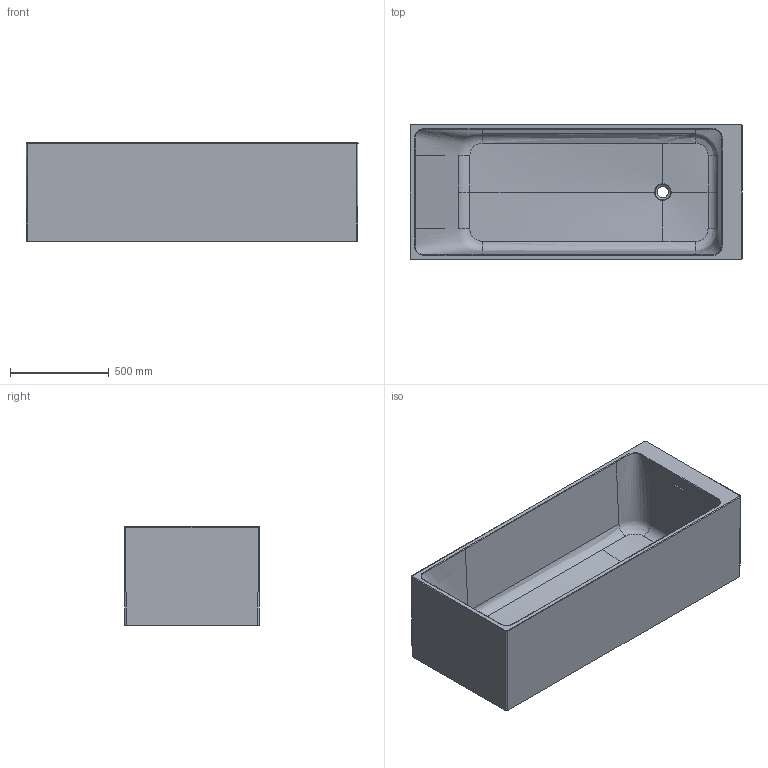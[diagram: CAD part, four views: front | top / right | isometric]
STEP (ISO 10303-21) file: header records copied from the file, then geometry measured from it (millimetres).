
FILE_DESCRIPTION(/* description */ (''),/* implementation_level */ '2;1');
FILE_NAME(/* name */ 'C769_vasca freestanding Rettangolare.stp',/* time_stamp */ '2014-05-16T14:10:15+02:00',/* author */ (''),/* organization */ (''),/* preprocessor_version */ 'ST-DEVELOPER v15',/* originating_system */ 'SIEMENS PLM Software NX 8.5',/* authorisation */ '');
FILE_SCHEMA (('AUTOMOTIVE_DESIGN { 1 0 10303 214 3 1 1 1 }'));
Products named in the file (1): Fabr0EE08485nnef
Bounding box: 1679.82 x 685.82 x 497 mm (x, y, z)
Volume: 95563813.3 mm3; surface area: 7400111.6 mm2
Topology: 1 solids, 1 shells, 245 faces, 597 edges, 345 vertices
Faces by surface type: bspline 119, cylinder 65, plane 45, sphere 10, torus 4, cone 2
Full cylindrical faces by diameter (mm): 56.658 x1
Entity records: 111122 total; most frequent: CARTESIAN_POINT 106377, ORIENTED_EDGE 1152, DIRECTION 725, EDGE_CURVE 576, VERTEX_POINT 339, AXIS2_PLACEMENT_3D 288, EDGE_LOOP 255, B_SPLINE_CURVE_WITH_KNOTS 254
